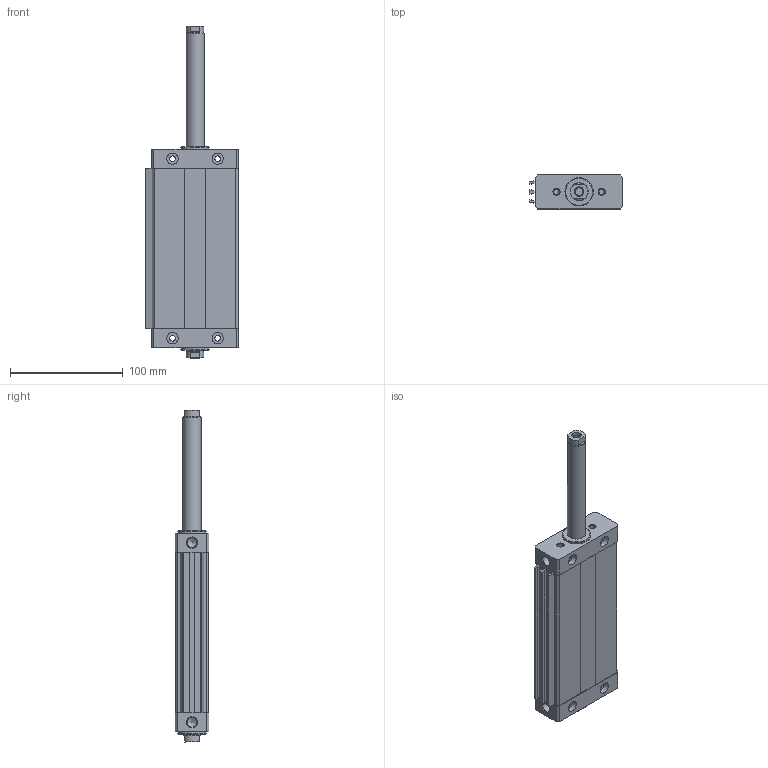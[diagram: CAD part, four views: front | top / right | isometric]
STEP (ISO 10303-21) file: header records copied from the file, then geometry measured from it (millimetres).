
FILE_DESCRIPTION((''),'2;1');
FILE_NAME('I:\Area Tecnica\Disegni\VARIE-3D\Componenti\1370 - CPO\1370_##_0000_03\1370_40_0100_03-01.iam.step','2010-12-16T10:56:42',(''),(''),'Autodesk Inventor 2011','Autodesk Inventor 2011','');
FILE_SCHEMA(('AUTOMOTIVE_DESIGN { 1 0 10303 214 1 1 1 1 }'));
Length unit declared in the file: millimetre
Products named in the file (5): 1370_40_0100_03-01; 1370_05_40_0000; 1370_06_40_0100; 1370_08_40_0000; 1370_3_40_0100
Assembly tree (4 placements, depth 2):
  1370_40_0100_03-01
    1370_05_40_0000
    1370_06_40_0100
    1370_08_40_0000
    1370_3_40_0100
Bounding box: 82.5 x 30 x 294 mm (x, y, z)
Volume: 302982.6 mm3; surface area: 103998.5 mm2
Topology: 4 solids, 4 shells, 166 faces, 398 edges, 254 vertices
Faces by surface type: plane 94, cylinder 48, cone 24
Full cylindrical faces by diameter (mm): 5 x10, 6.8 x2, 8.4 x2, 8.7 x2, 10 x8, 15.5 x2, 16 x4, 25 x2
Entity records: 4848 total; most frequent: DIRECTION 802, CARTESIAN_POINT 799, ORIENTED_EDGE 672, EDGE_CURVE 336, AXIS2_PLACEMENT_3D 299, EDGE_LOOP 254, VERTEX_POINT 244, VECTOR 204
